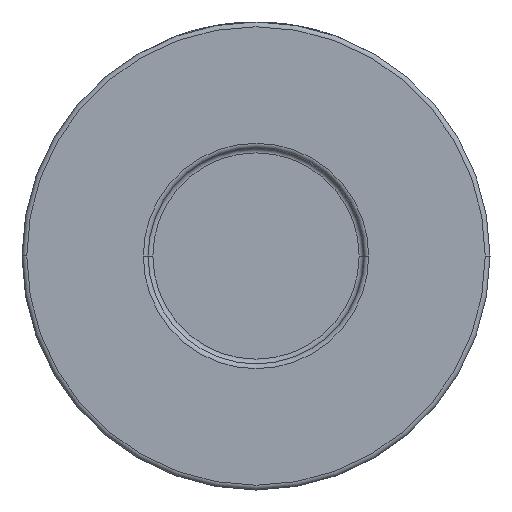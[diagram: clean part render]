
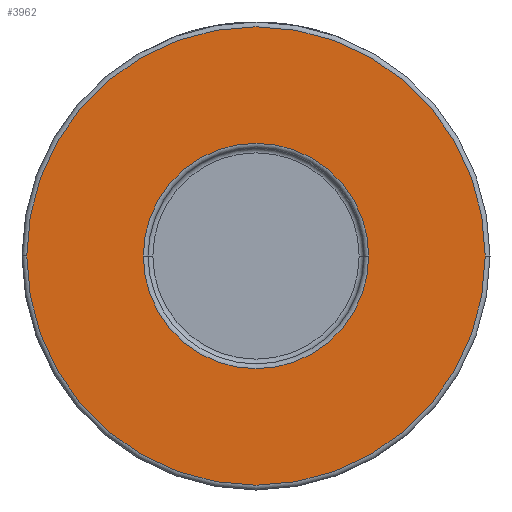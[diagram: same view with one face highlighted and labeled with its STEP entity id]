
A CAD part, front view. The second image highlights one B-rep face of the part: STEP entity #3962.
In plain terms, the highlighted planar face has unit normal (0, -1, 0).
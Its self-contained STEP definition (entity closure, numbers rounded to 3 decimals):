
#99 = ORIENTED_EDGE ( 'NONE', *, *, #3700, .T. ) ;
#115 = AXIS2_PLACEMENT_3D ( 'NONE', #208, #1628, #3017 ) ;
#208 = CARTESIAN_POINT ( 'NONE',  ( 0., -30., 0. ) ) ;
#239 = AXIS2_PLACEMENT_3D ( 'NONE', #1333, #1445, #3304 ) ;
#362 = EDGE_LOOP ( 'NONE', ( #3760, #1501 ) ) ;
#941 = EDGE_CURVE ( 'NONE', #3967, #3006, #2634, .T. ) ;
#987 = CARTESIAN_POINT ( 'NONE',  ( -48., -30., 0. ) ) ;
#1022 = PLANE ( 'NONE',  #4532 ) ;
#1157 = CIRCLE ( 'NONE', #3766, 48. ) ;
#1243 = DIRECTION ( 'NONE',  ( 1., 0., 0. ) ) ;
#1333 = CARTESIAN_POINT ( 'NONE',  ( 0., -30., 0. ) ) ;
#1372 = DIRECTION ( 'NONE',  ( 1., 0., 0. ) ) ;
#1399 = DIRECTION ( 'NONE',  ( 0., -1., 0. ) ) ;
#1445 = DIRECTION ( 'NONE',  ( 0., -1., 0. ) ) ;
#1501 = ORIENTED_EDGE ( 'NONE', *, *, #941, .T. ) ;
#1542 = EDGE_LOOP ( 'NONE', ( #2263, #99 ) ) ;
#1628 = DIRECTION ( 'NONE',  ( 0., 1., 0. ) ) ;
#2085 = CARTESIAN_POINT ( 'NONE',  ( 49., -30., 0. ) ) ;
#2263 = ORIENTED_EDGE ( 'NONE', *, *, #2377, .T. ) ;
#2301 = CARTESIAN_POINT ( 'NONE',  ( 23.6, -30., 0. ) ) ;
#2377 = EDGE_CURVE ( 'NONE', #3778, #2644, #1157, .T. ) ;
#2473 = FACE_BOUND ( 'NONE', #362, .T. ) ;
#2616 = CARTESIAN_POINT ( 'NONE',  ( 0., -30., 0. ) ) ;
#2634 = CIRCLE ( 'NONE', #115, 23.6 ) ;
#2644 = VERTEX_POINT ( 'NONE', #987 ) ;
#2910 = CIRCLE ( 'NONE', #239, 48. ) ;
#3006 = VERTEX_POINT ( 'NONE', #2301 ) ;
#3017 = DIRECTION ( 'NONE',  ( 1., 0., 0. ) ) ;
#3047 = CARTESIAN_POINT ( 'NONE',  ( 0., -30., 0. ) ) ;
#3211 = CIRCLE ( 'NONE', #3725, 23.6 ) ;
#3304 = DIRECTION ( 'NONE',  ( 1., 0., 0. ) ) ;
#3700 = EDGE_CURVE ( 'NONE', #2644, #3778, #2910, .T. ) ;
#3725 = AXIS2_PLACEMENT_3D ( 'NONE', #3047, #4068, #4112 ) ;
#3760 = ORIENTED_EDGE ( 'NONE', *, *, #4043, .T. ) ;
#3766 = AXIS2_PLACEMENT_3D ( 'NONE', #2616, #4077, #1243 ) ;
#3778 = VERTEX_POINT ( 'NONE', #3979 ) ;
#3962 = ADVANCED_FACE ( 'NONE', ( #2473, #4206 ), #1022, .T. ) ;
#3967 = VERTEX_POINT ( 'NONE', #4180 ) ;
#3979 = CARTESIAN_POINT ( 'NONE',  ( 48., -30., 0. ) ) ;
#4043 = EDGE_CURVE ( 'NONE', #3006, #3967, #3211, .T. ) ;
#4068 = DIRECTION ( 'NONE',  ( 0., 1., 0. ) ) ;
#4077 = DIRECTION ( 'NONE',  ( 0., -1., 0. ) ) ;
#4112 = DIRECTION ( 'NONE',  ( 1., 0., 0. ) ) ;
#4180 = CARTESIAN_POINT ( 'NONE',  ( -23.6, -30., 0. ) ) ;
#4206 = FACE_OUTER_BOUND ( 'NONE', #1542, .T. ) ;
#4532 = AXIS2_PLACEMENT_3D ( 'NONE', #2085, #1399, #1372 ) ;
